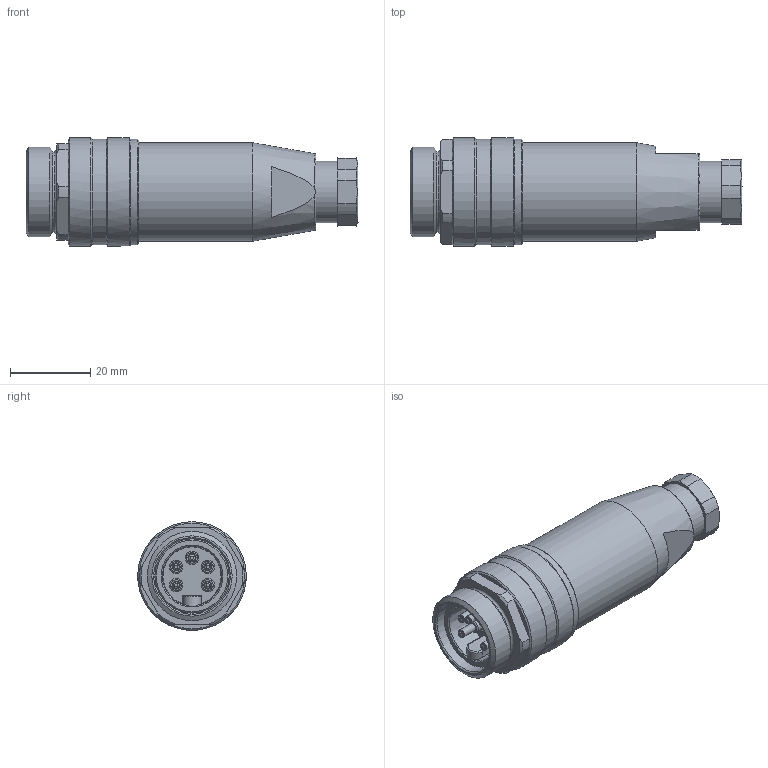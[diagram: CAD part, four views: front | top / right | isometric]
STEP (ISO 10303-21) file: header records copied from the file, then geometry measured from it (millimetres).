
FILE_DESCRIPTION(/* description */ (''),/* implementation_level */ '2;1');
FILE_NAME(/* name */ '99 2445 12 05 001_00.stp',/* time_stamp */ '2013-10-17T16:11:46+02:00',/* author */ (''),/* organization */ (''),/* preprocessor_version */ 'ST-DEVELOPER v14',/* originating_system */ 'SIEMENS PLM Software NX 8.0',/* authorisation */ '');
FILE_SCHEMA (('AUTOMOTIVE_DESIGN { 1 0 10303 214 3 1 1 1 }'));
Length unit declared in the file: millimetre
Products named in the file (1): cerl0F444C33takj
Bounding box: 82.6 x 27 x 27 mm (x, y, z)
Volume: 33481 mm3; surface area: 8428.5 mm2
Topology: 1 solids, 1 shells, 123 faces, 275 edges, 170 vertices
Faces by surface type: plane 43, cylinder 37, cone 24, bspline 10, torus 9
Full cylindrical faces by diameter (mm): 2 x5, 3.3 x5, 3.5 x1, 15.2 x1, 17.8 x1, 18.5 x1, 20 x1, 22.187 x1, 24.5 x1, 26.3 x2, 27 x2
Entity records: 3450 total; most frequent: CARTESIAN_POINT 1027, DIRECTION 513, ORIENTED_EDGE 408, AXIS2_PLACEMENT_3D 230, EDGE_CURVE 204, EDGE_LOOP 193, VERTEX_POINT 153, FACE_BOUND 136
